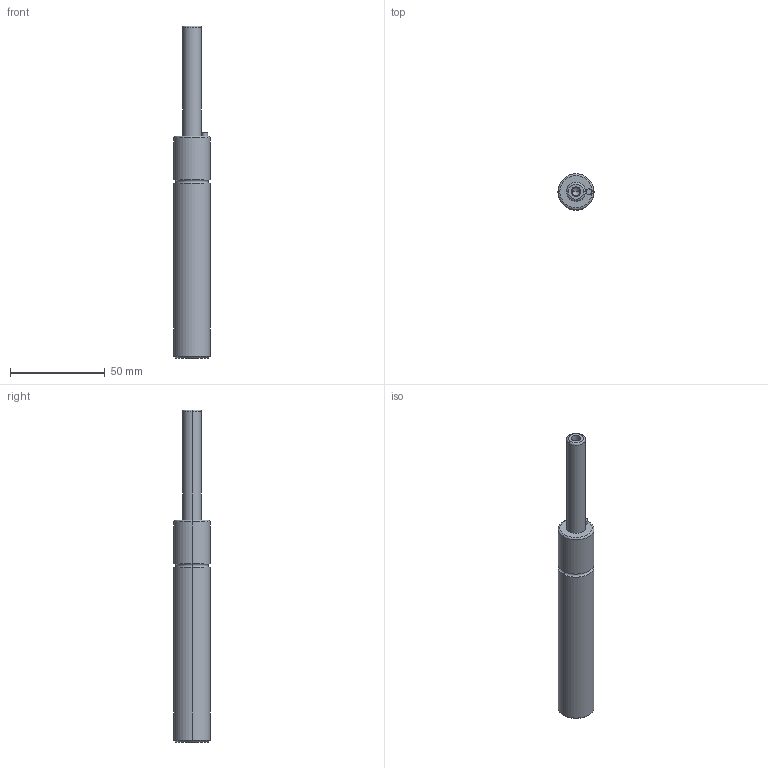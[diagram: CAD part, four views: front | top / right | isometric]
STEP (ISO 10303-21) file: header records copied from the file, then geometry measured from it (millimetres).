
FILE_DESCRIPTION(/* description */ (''),/* implementation_level */ '2;1');
FILE_NAME(/* name */ '3d_gsm19-56_03895_r00.stp',/* time_stamp */ '2011-01-10T14:15:17+09:00',/* author */ ('MISUMI'),/* organization */ (''),/* preprocessor_version */ 'ST-DEVELOPER v11',/* originating_system */ 'UGS - NX 5.0',/* authorisation */ '');
FILE_SCHEMA (('CONFIG_CONTROL_DESIGN'));
Length unit declared in the file: millimetre
Products named in the file (1): 3d_gsm19-56_03895_r00
Bounding box: 19 x 19 x 175 mm (x, y, z)
Volume: 37164.6 mm3; surface area: 9689.8 mm2
Topology: 1 solids, 1 shells, 34 faces, 70 edges, 40 vertices
Faces by surface type: cylinder 16, cone 6, plane 6, torus 6
Entity records: 964 total; most frequent: DIRECTION 180, CARTESIAN_POINT 141, ORIENTED_EDGE 132, AXIS2_PLACEMENT_3D 79, EDGE_CURVE 66, CIRCLE 44, EDGE_LOOP 40, VERTEX_POINT 40
